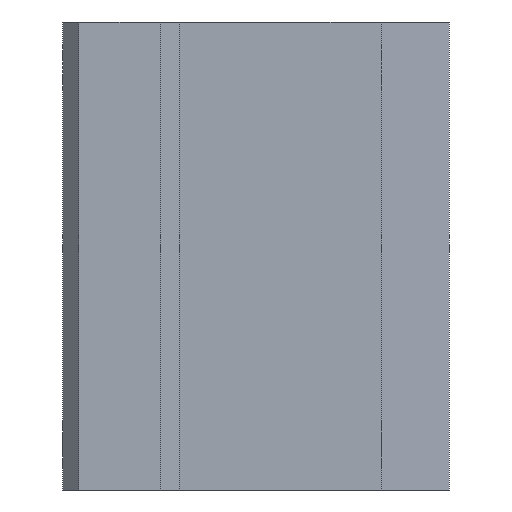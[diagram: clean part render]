
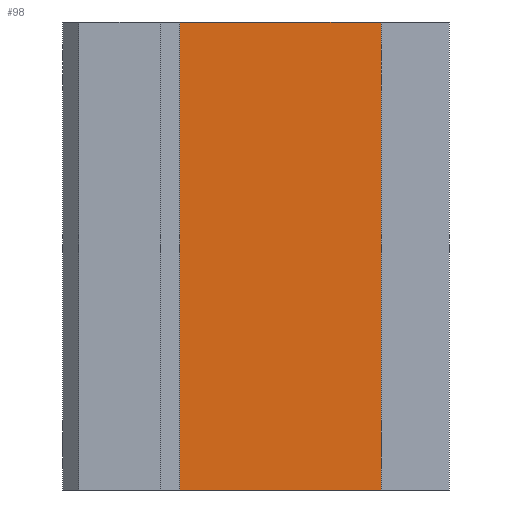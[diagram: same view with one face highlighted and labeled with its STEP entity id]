
A CAD part, left-side view. The second image highlights one B-rep face of the part: STEP entity #98.
In plain terms, the highlighted planar face has unit normal (-1, 0, 0).
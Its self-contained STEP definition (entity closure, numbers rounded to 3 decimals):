
#98=ADVANCED_FACE('',(#198),#199,.F.);
#198=FACE_OUTER_BOUND('',#359,.T.);
#199=PLANE('',#360);
#359=EDGE_LOOP('',(#665,#666,#667,#668));
#360=AXIS2_PLACEMENT_3D('',#669,#670,#671);
#665=ORIENTED_EDGE('',*,*,#1014,.T.);
#666=ORIENTED_EDGE('',*,*,#1041,.F.);
#667=ORIENTED_EDGE('',*,*,#977,.F.);
#668=ORIENTED_EDGE('',*,*,#1042,.T.);
#669=CARTESIAN_POINT('',(-36.0,12.0,36.0));
#670=DIRECTION('',(1.0,0.0,0.0));
#671=DIRECTION('',(0.0,1.0,0.0));
#977=EDGE_CURVE('',#1145,#1147,#1148,.T.);
#1014=EDGE_CURVE('',#1221,#1219,#1222,.T.);
#1041=EDGE_CURVE('',#1147,#1219,#1258,.T.);
#1042=EDGE_CURVE('',#1145,#1221,#1259,.T.);
#1145=VERTEX_POINT('',#1409);
#1147=VERTEX_POINT('',#1412);
#1148=LINE('',#1413,#1414);
#1219=VERTEX_POINT('',#1517);
#1221=VERTEX_POINT('',#1520);
#1222=LINE('',#1521,#1522);
#1258=LINE('',#1578,#1579);
#1259=LINE('',#1580,#1581);
#1409=CARTESIAN_POINT('',(-36.0,12.0,36.0));
#1412=CARTESIAN_POINT('',(-36.0,-19.0,36.0));
#1413=CARTESIAN_POINT('',(-36.0,12.0,36.0));
#1414=VECTOR('',#1761,1.0);
#1517=CARTESIAN_POINT('',(-36.0,-19.0,-36.0));
#1520=CARTESIAN_POINT('',(-36.0,12.0,-36.0));
#1521=CARTESIAN_POINT('',(-36.0,12.0,-36.0));
#1522=VECTOR('',#1804,1.0);
#1578=CARTESIAN_POINT('',(-36.0,-19.0,36.0));
#1579=VECTOR('',#1843,1.0);
#1580=CARTESIAN_POINT('',(-36.0,12.0,36.0));
#1581=VECTOR('',#1844,1.0);
#1761=DIRECTION('',(0.0,-1.0,0.0));
#1804=DIRECTION('',(0.0,-1.0,0.0));
#1843=DIRECTION('',(0.0,0.0,-1.0));
#1844=DIRECTION('',(0.0,0.0,-1.0));
